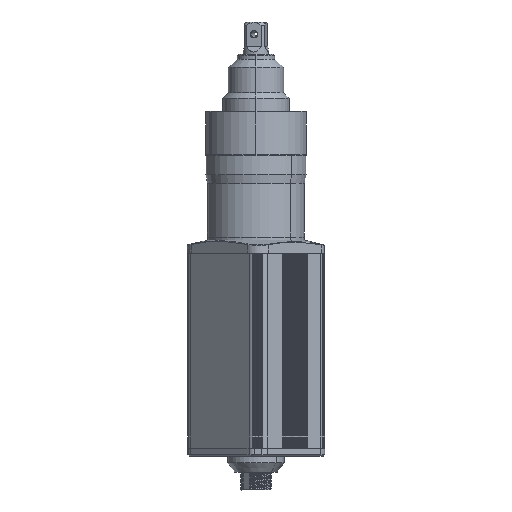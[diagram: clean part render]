
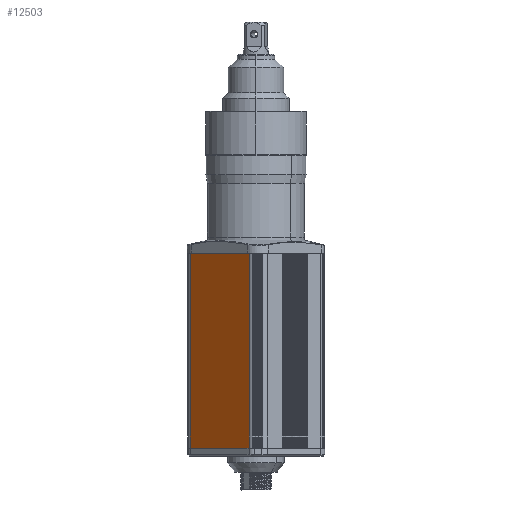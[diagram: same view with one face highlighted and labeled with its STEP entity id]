
A CAD part, left-side view. The second image highlights one B-rep face of the part: STEP entity #12503.
In plain terms, the highlighted planar face has unit normal (-0.707, 0.707, 0).
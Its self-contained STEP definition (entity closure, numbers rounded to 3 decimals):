
#12 = VERTEX_POINT ( 'NONE', #6700 ) ;
#715 = EDGE_CURVE ( 'NONE', #12, #10535, #16089, .T. ) ;
#1967 = VECTOR ( 'NONE', #30061, 1000. ) ;
#3074 = DIRECTION ( 'NONE',  ( 0.707, -0.707, 0. ) ) ;
#3428 = CARTESIAN_POINT ( 'NONE',  ( -40.538, 4.293, -180.5 ) ) ;
#3501 = ORIENTED_EDGE ( 'NONE', *, *, #715, .T. ) ;
#4042 = DIRECTION ( 'NONE',  ( 0., 0., -1. ) ) ;
#6700 = CARTESIAN_POINT ( 'NONE',  ( -4.293, 40.538, -180.5 ) ) ;
#7605 = VECTOR ( 'NONE', #20810, 1000. ) ;
#8634 = VECTOR ( 'NONE', #21595, 1000. ) ;
#9006 = ORIENTED_EDGE ( 'NONE', *, *, #12035, .T. ) ;
#9681 = AXIS2_PLACEMENT_3D ( 'NONE', #25289, #3074, #10527 ) ;
#10527 = DIRECTION ( 'NONE',  ( 0., 0., 1. ) ) ;
#10535 = VERTEX_POINT ( 'NONE', #3428 ) ;
#10918 = CARTESIAN_POINT ( 'NONE',  ( -40.538, 4.293, -60.5 ) ) ;
#12035 = EDGE_CURVE ( 'NONE', #29580, #12, #30980, .T. ) ;
#12503 = ADVANCED_FACE ( 'NONE', ( #17818 ), #27727, .F. ) ;
#12690 = CARTESIAN_POINT ( 'NONE',  ( -4.293, 40.538, -60.5 ) ) ;
#16065 = EDGE_CURVE ( 'NONE', #29701, #10535, #23238, .T. ) ;
#16089 = LINE ( 'NONE', #18676, #8634 ) ;
#16368 = CARTESIAN_POINT ( 'NONE',  ( -4.293, 40.538, -60.5 ) ) ;
#17471 = VECTOR ( 'NONE', #4042, 1000. ) ;
#17818 = FACE_OUTER_BOUND ( 'NONE', #30329, .T. ) ;
#18244 = CARTESIAN_POINT ( 'NONE',  ( -4.293, 40.538, -60.5 ) ) ;
#18676 = CARTESIAN_POINT ( 'NONE',  ( -4.293, 40.538, -180.5 ) ) ;
#20810 = DIRECTION ( 'NONE',  ( 0., 0., -1. ) ) ;
#21595 = DIRECTION ( 'NONE',  ( -0.707, -0.707, 0. ) ) ;
#23126 = ORIENTED_EDGE ( 'NONE', *, *, #16065, .F. ) ;
#23238 = LINE ( 'NONE', #10918, #7605 ) ;
#25289 = CARTESIAN_POINT ( 'NONE',  ( -4.293, 40.538, -60.5 ) ) ;
#27727 = PLANE ( 'NONE',  #9681 ) ;
#28047 = EDGE_CURVE ( 'NONE', #29580, #29701, #28191, .T. ) ;
#28191 = LINE ( 'NONE', #12690, #1967 ) ;
#29580 = VERTEX_POINT ( 'NONE', #18244 ) ;
#29701 = VERTEX_POINT ( 'NONE', #30133 ) ;
#30061 = DIRECTION ( 'NONE',  ( -0.707, -0.707, 0. ) ) ;
#30133 = CARTESIAN_POINT ( 'NONE',  ( -40.538, 4.293, -60.5 ) ) ;
#30329 = EDGE_LOOP ( 'NONE', ( #3501, #23126, #31699, #9006 ) ) ;
#30980 = LINE ( 'NONE', #16368, #17471 ) ;
#31699 = ORIENTED_EDGE ( 'NONE', *, *, #28047, .F. ) ;
